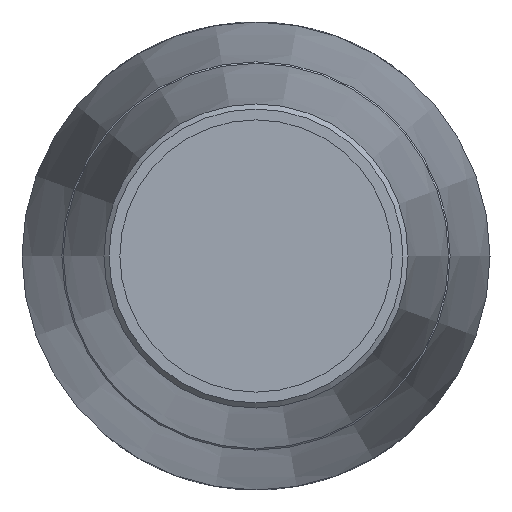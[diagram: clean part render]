
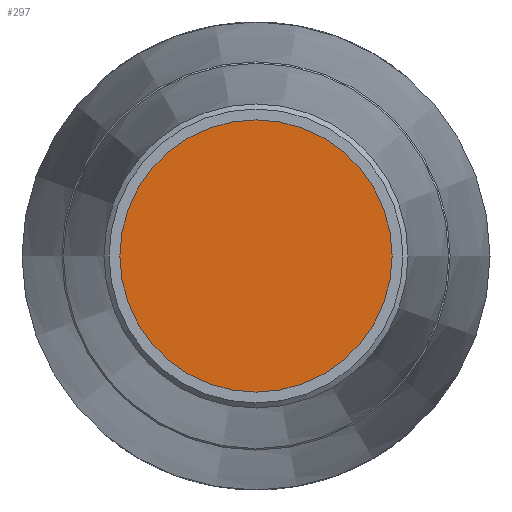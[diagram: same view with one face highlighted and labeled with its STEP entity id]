
A CAD part, left-side view. The second image highlights one B-rep face of the part: STEP entity #297.
In plain terms, the highlighted planar face has unit normal (-1, 0, 0).
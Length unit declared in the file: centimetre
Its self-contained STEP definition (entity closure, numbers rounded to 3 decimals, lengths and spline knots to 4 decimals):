
#19=PLANE('',#336);
#82=FACE_OUTER_BOUND('',#120,.T.);
#120=EDGE_LOOP('',(#244));
#136=CIRCLE('',#335,1.425);
#160=VERTEX_POINT('',#592);
#188=EDGE_CURVE('',#160,#160,#136,.T.);
#244=ORIENTED_EDGE('',*,*,#188,.T.);
#297=ADVANCED_FACE('',(#82),#19,.T.);
#335=AXIS2_PLACEMENT_3D('',#593,#417,#418);
#336=AXIS2_PLACEMENT_3D('',#594,#419,#420);
#417=DIRECTION('center_axis',(-1.,0.,0.));
#418=DIRECTION('ref_axis',(0.,0.,-1.));
#419=DIRECTION('center_axis',(-1.,0.,0.));
#420=DIRECTION('ref_axis',(0.,0.,-1.));
#592=CARTESIAN_POINT('',(-14.9,1.425,0.));
#593=CARTESIAN_POINT('Origin',(-14.9,0.,0.));
#594=CARTESIAN_POINT('Origin',(-14.9,0.,0.));
